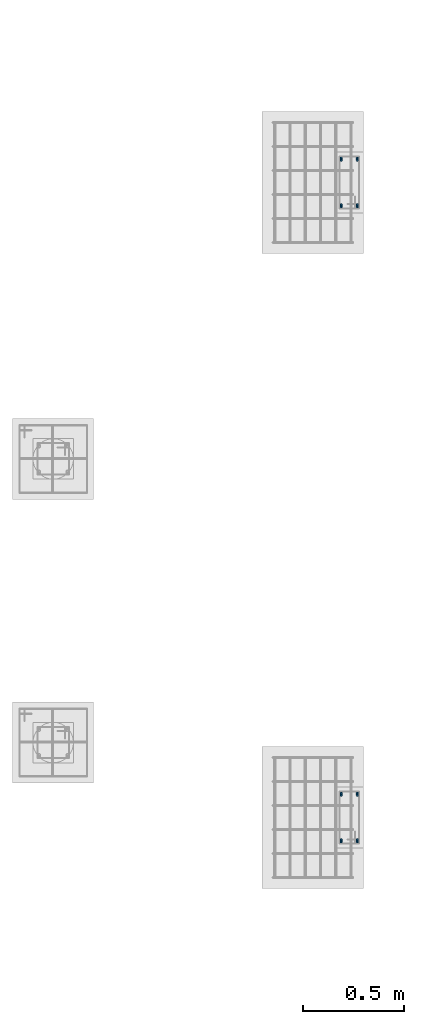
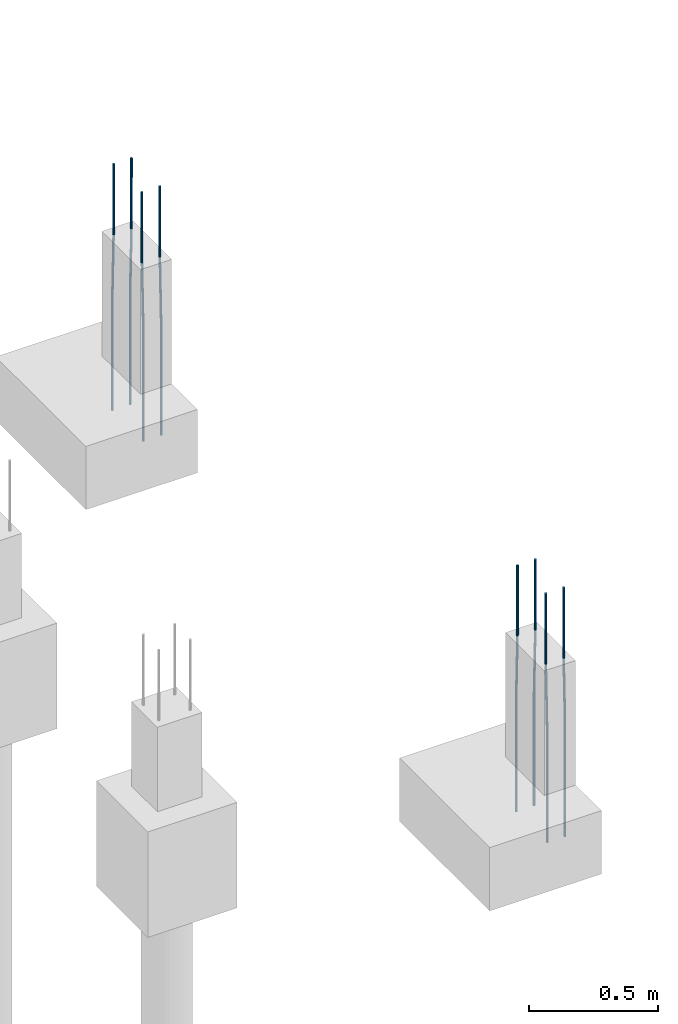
# One storey, part 64 of 119: 8 reinforcing bars.
"""IFC4 building model written with IfcOpenShell, lengths in centimetres."""

from ifc_helpers import new_model, entity, si_unit, derived_unit, frame, origin_with_axes, place, context, project, spatial, element, save


model = new_model("IFC4")

# Units and contexts
model_context = context("Model", 3, precision=1e-05, world=origin_with_axes(), identifier="Body")
ifc_project = project(units=[si_unit("LENGTHUNIT", "METRE", prefix="CENTI"), si_unit("VOLUMEUNIT", "CUBIC_METRE"), si_unit("AREAUNIT", "SQUARE_METRE"), si_unit("POWERUNIT", "WATT"), si_unit("LUMINOUSFLUXUNIT", "LUMEN"), si_unit("ELECTRICCURRENTUNIT", "AMPERE"), si_unit("PRESSUREUNIT", "PASCAL", prefix="KILO"), si_unit("MASSUNIT", "GRAM", prefix="KILO"), si_unit("PLANEANGLEUNIT", "RADIAN"), derived_unit("VOLUMETRICFLOWRATEUNIT", [(si_unit("LENGTHUNIT", "METRE"), 3), (si_unit("TIMEUNIT", "SECOND"), -1)])], contexts=[model_context])

# Site, building, storey
site_placement = place(None, frame((-4000.0, 0.0, 0.0), z_axis=(0.0, 0.0, 1.0), x_axis=(1.0, 0.0, 0.0)))
site = spatial("IfcSite", under=ifc_project, at=site_placement, Name="PADRÃO")
building_placement = place(site_placement, frame((0.0, 0.0, -14.0)))
building = spatial("IfcBuilding", under=site, at=building_placement, Name="CRECHE PRÉ-ESCOLA TIPO 2")
storey_placement = place(building_placement, origin_with_axes())
storey = spatial("IfcBuildingStorey", under=building, at=storey_placement, Name="FUNDAÇÃO", CompositionType="ELEMENT", Elevation=-14.0)

# Reinforcing bars
reinforcing_bar_1_placement = place(storey_placement, frame((3988.0, 3530.0, 33.3573001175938), z_axis=(0.0, 0.0, 1.0), x_axis=(1.0, 0.0, 0.0)))
element("IfcReinforcingBar", 1, at=reinforcing_bar_1_placement, inside=storey, Name="P38 - Longitudinal", BarLength=0.0, CrossSectionArea=7.853981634e-05, NominalDiameter=1.0, PredefinedType="MAIN", context=model_context, shape_type="AdvancedSweptSolid", body=[
    entity("IfcSweptDiskSolid", entity("IfcCompositeCurve", [entity("IfcCompositeCurveSegment", "CONTINUOUS", True, entity("IfcPolyline", [entity("IfcCartesianPoint", [0.0, -0.5, -117.357300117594]), entity("IfcCartesianPoint", [0.0, -0.5, -63.3573001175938])])), entity("IfcCompositeCurveSegment", "CONTINUOUS", True, entity("IfcPolyline", [entity("IfcCartesianPoint", [0.0, -0.5, -63.3573001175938]), entity("IfcCartesianPoint", [0.0, 0.5, -33.3573001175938])])), entity("IfcCompositeCurveSegment", "CONTINUOUS", True, entity("IfcPolyline", [entity("IfcCartesianPoint", [0.0, 0.5, -33.3573001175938]), entity("IfcCartesianPoint", [0.0, 0.5, 0.0])]))], False), 0.5),
])
reinforcing_bar_2_placement = place(storey_placement, frame((3988.0, 3553.0, 33.3573001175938), z_axis=(0.0, 0.0, 1.0), x_axis=(1.0, 0.0, 0.0)))
element("IfcReinforcingBar", 2, at=reinforcing_bar_2_placement, inside=storey, Name="P38 - Longitudinal", BarLength=0.0, CrossSectionArea=7.853981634e-05, NominalDiameter=1.0, PredefinedType="MAIN", context=model_context, shape_type="AdvancedSweptSolid", body=[
    entity("IfcSweptDiskSolid", entity("IfcCompositeCurve", [entity("IfcCompositeCurveSegment", "CONTINUOUS", True, entity("IfcPolyline", [entity("IfcCartesianPoint", [0.0, 0.5, -117.357300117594]), entity("IfcCartesianPoint", [0.0, 0.5, -63.3573001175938])])), entity("IfcCompositeCurveSegment", "CONTINUOUS", True, entity("IfcPolyline", [entity("IfcCartesianPoint", [0.0, 0.5, -63.3573001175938]), entity("IfcCartesianPoint", [0.0, -0.5, -33.3573001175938])])), entity("IfcCompositeCurveSegment", "CONTINUOUS", True, entity("IfcPolyline", [entity("IfcCartesianPoint", [0.0, -0.5, -33.3573001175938]), entity("IfcCartesianPoint", [0.0, -0.5, 0.0])]))], False), 0.5),
])
reinforcing_bar_3_placement = place(storey_placement, frame((3996.0, 3530.0, 33.3573001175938), z_axis=(0.0, 0.0, 1.0), x_axis=(1.0, 0.0, 0.0)))
element("IfcReinforcingBar", 3, at=reinforcing_bar_3_placement, inside=storey, Name="P38 - Longitudinal", BarLength=0.0, CrossSectionArea=7.853981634e-05, NominalDiameter=1.0, PredefinedType="MAIN", context=model_context, shape_type="AdvancedSweptSolid", body=[
    entity("IfcSweptDiskSolid", entity("IfcCompositeCurve", [entity("IfcCompositeCurveSegment", "CONTINUOUS", True, entity("IfcPolyline", [entity("IfcCartesianPoint", [0.0, -0.5, -117.357300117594]), entity("IfcCartesianPoint", [0.0, -0.5, -63.3573001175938])])), entity("IfcCompositeCurveSegment", "CONTINUOUS", True, entity("IfcPolyline", [entity("IfcCartesianPoint", [0.0, -0.5, -63.3573001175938]), entity("IfcCartesianPoint", [0.0, 0.5, -33.3573001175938])])), entity("IfcCompositeCurveSegment", "CONTINUOUS", True, entity("IfcPolyline", [entity("IfcCartesianPoint", [0.0, 0.5, -33.3573001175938]), entity("IfcCartesianPoint", [0.0, 0.5, 0.0])]))], False), 0.5),
])
for number, where, z_axis, x_axis, name in (
    (4, (3996.0, 3553.0, 33.3573001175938), (0.0, 0.0, 1.0), (1.0, 0.0, 0.0), "P38 - Longitudinal"),
    (5, (3996.0, 3239.5, 33.3573001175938), (0.0, 0.0, 1.0), (1.0, 0.0, 0.0), "P57 - Longitudinal"),
):
    element("IfcReinforcingBar", number, at=place(storey_placement, frame(where, z_axis=z_axis, x_axis=x_axis)), inside=storey, Name=name, BarLength=0.0, CrossSectionArea=7.853981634e-05, NominalDiameter=1.0, PredefinedType="MAIN", context=model_context, shape_type="AdvancedSweptSolid", body=[
        entity("IfcSweptDiskSolid", entity("IfcCompositeCurve", [entity("IfcCompositeCurveSegment", "CONTINUOUS", True, entity("IfcPolyline", [entity("IfcCartesianPoint", [0.0, 0.5, -117.357300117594]), entity("IfcCartesianPoint", [0.0, 0.5, -63.3573001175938])])), entity("IfcCompositeCurveSegment", "CONTINUOUS", True, entity("IfcPolyline", [entity("IfcCartesianPoint", [0.0, 0.5, -63.3573001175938]), entity("IfcCartesianPoint", [0.0, -0.5, -33.3573001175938])])), entity("IfcCompositeCurveSegment", "CONTINUOUS", True, entity("IfcPolyline", [entity("IfcCartesianPoint", [0.0, -0.5, -33.3573001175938]), entity("IfcCartesianPoint", [0.0, -0.5, 0.0])]))], False), 0.5),
    ])
for number, where, z_axis, x_axis, name in (
    (6, (3996.0, 3216.5, 33.3573001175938), (0.0, 0.0, 1.0), (1.0, 0.0, 0.0), "P57 - Longitudinal"),
    (7, (3988.0, 3216.5, 33.3573001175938), (0.0, 0.0, 1.0), (1.0, 0.0, 0.0), "P57 - Longitudinal"),
):
    element("IfcReinforcingBar", number, at=place(storey_placement, frame(where, z_axis=z_axis, x_axis=x_axis)), inside=storey, Name=name, BarLength=0.0, CrossSectionArea=7.853981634e-05, NominalDiameter=1.0, PredefinedType="MAIN", context=model_context, shape_type="AdvancedSweptSolid", body=[
        entity("IfcSweptDiskSolid", entity("IfcCompositeCurve", [entity("IfcCompositeCurveSegment", "CONTINUOUS", True, entity("IfcPolyline", [entity("IfcCartesianPoint", [0.0, -0.5, -117.357300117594]), entity("IfcCartesianPoint", [0.0, -0.5, -63.3573001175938])])), entity("IfcCompositeCurveSegment", "CONTINUOUS", True, entity("IfcPolyline", [entity("IfcCartesianPoint", [0.0, -0.5, -63.3573001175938]), entity("IfcCartesianPoint", [0.0, 0.5, -33.3573001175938])])), entity("IfcCompositeCurveSegment", "CONTINUOUS", True, entity("IfcPolyline", [entity("IfcCartesianPoint", [0.0, 0.5, -33.3573001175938]), entity("IfcCartesianPoint", [0.0, 0.5, 0.0])]))], False), 0.5),
    ])
reinforcing_bar_4_placement = place(storey_placement, frame((3988.0, 3239.5, 33.3573001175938), z_axis=(0.0, 0.0, 1.0), x_axis=(1.0, 0.0, 0.0)))
element("IfcReinforcingBar", 8, at=reinforcing_bar_4_placement, inside=storey, Name="P57 - Longitudinal", BarLength=0.0, CrossSectionArea=7.853981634e-05, NominalDiameter=1.0, PredefinedType="MAIN", context=model_context, shape_type="AdvancedSweptSolid", body=[
    entity("IfcSweptDiskSolid", entity("IfcCompositeCurve", [entity("IfcCompositeCurveSegment", "CONTINUOUS", True, entity("IfcPolyline", [entity("IfcCartesianPoint", [0.0, 0.5, -117.357300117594]), entity("IfcCartesianPoint", [0.0, 0.5, -63.3573001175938])])), entity("IfcCompositeCurveSegment", "CONTINUOUS", True, entity("IfcPolyline", [entity("IfcCartesianPoint", [0.0, 0.5, -63.3573001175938]), entity("IfcCartesianPoint", [0.0, -0.5, -33.3573001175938])])), entity("IfcCompositeCurveSegment", "CONTINUOUS", True, entity("IfcPolyline", [entity("IfcCartesianPoint", [0.0, -0.5, -33.3573001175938]), entity("IfcCartesianPoint", [0.0, -0.5, 0.0])]))], False), 0.5),
])

save(model, "model.ifc")
